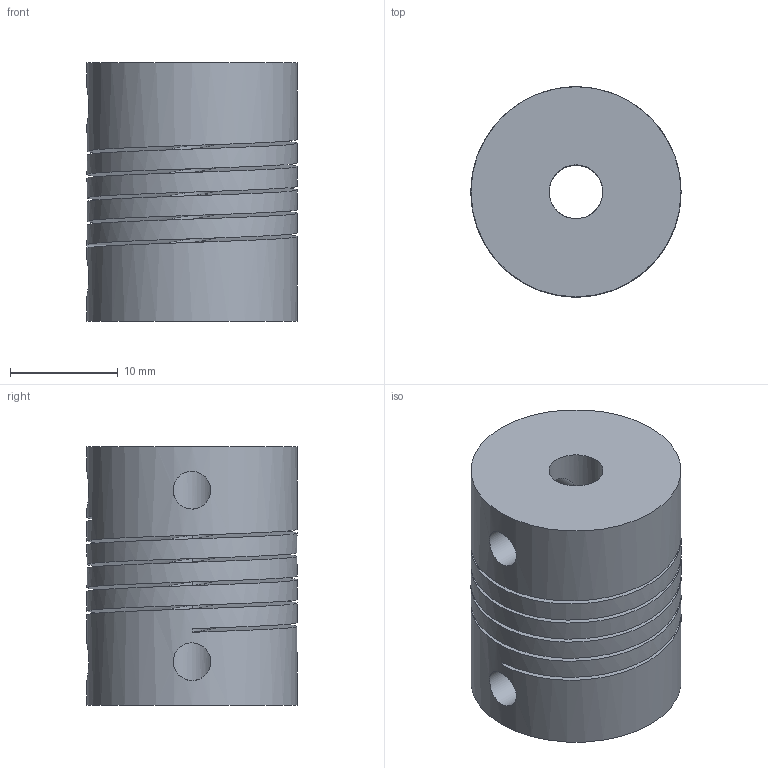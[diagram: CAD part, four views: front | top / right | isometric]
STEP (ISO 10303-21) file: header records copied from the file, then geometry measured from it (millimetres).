
FILE_DESCRIPTION(/* description */ ('Alibre Inc.'),/* implementation_level */ '2;1');
FILE_NAME(/* name */ 'export0',/* time_stamp */ '2013-07-09T14:25:36-06:00',/* author */ (''),/* organization */ (''),/* preprocessor_version */ 'ST-DEVELOPER v14',/* originating_system */ 'Alibre',/* authorisation */ '');
FILE_SCHEMA (('ALIBRE_SCHEMA','CONFIG_CONTROL_DESIGN'));
Length unit declared in the file: centimetre
Products named in the file (1): ID_1
Bounding box: 19.5 x 19.5 x 24 mm (x, y, z)
Volume: 5957.5 mm3; surface area: 5218.1 mm2
Topology: 1 solids, 1 shells, 20 faces, 68 edges, 48 vertices
Faces by surface type: cylinder 14, plane 4, bspline 2
Full cylindrical faces by diameter (mm): 3.5 x4, 5 x5, 19.5 x5
Entity records: 2459 total; most frequent: CARTESIAN_POINT 1324, DIRECTION 72, CONSTRAINTPAIRUV 66, REFERENCEDEPENDENTUV 60, ORIENTED_EDGE 56, VECTOR 41, ENTITYHEADERPROPERTIES 40, REFERENCEPOINTUV 36
